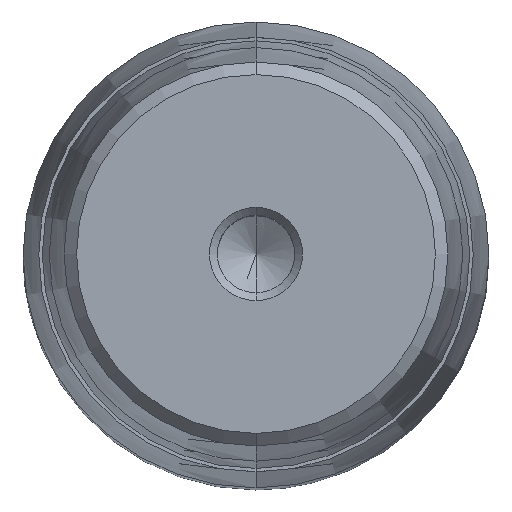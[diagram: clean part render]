
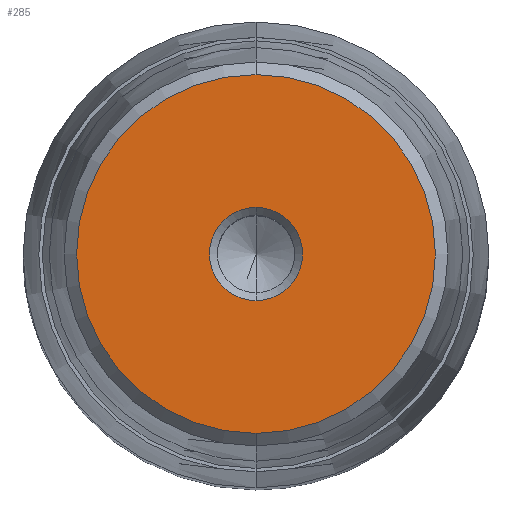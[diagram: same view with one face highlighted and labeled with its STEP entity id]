
A CAD part, top view. The second image highlights one B-rep face of the part: STEP entity #285.
In plain terms, the highlighted planar face has unit normal (0, 0, 1).
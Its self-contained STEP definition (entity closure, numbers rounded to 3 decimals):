
#164=CARTESIAN_POINT('Axis2P3D Location',(0.,0.,48.)) ;
#168=CARTESIAN_POINT('Vertex',(4.,0.,48.)) ;
#170=CARTESIAN_POINT('Vertex',(0.,-4.,48.)) ;
#173=CARTESIAN_POINT('Axis2P3D Location',(0.,0.,48.)) ;
#177=CARTESIAN_POINT('Vertex',(0.,4.,48.)) ;
#228=CARTESIAN_POINT('Axis2P3D Location',(0.,4.,48.)) ;
#233=CARTESIAN_POINT('Axis2P3D Location',(0.,0.,48.)) ;
#237=CARTESIAN_POINT('Vertex',(0.,15.4,48.)) ;
#239=CARTESIAN_POINT('Vertex',(15.4,0.,48.)) ;
#242=CARTESIAN_POINT('Axis2P3D Location',(0.,0.,48.)) ;
#246=CARTESIAN_POINT('Vertex',(-15.4,0.,48.)) ;
#249=CARTESIAN_POINT('Axis2P3D Location',(0.,0.,48.)) ;
#253=CARTESIAN_POINT('Vertex',(0.,-15.4,48.)) ;
#256=CARTESIAN_POINT('Axis2P3D Location',(0.,0.,48.)) ;
#267=CARTESIAN_POINT('Axis2P3D Location',(0.,0.,48.)) ;
#271=CARTESIAN_POINT('Vertex',(-4.,0.,48.)) ;
#274=CARTESIAN_POINT('Axis2P3D Location',(0.,0.,48.)) ;
#165=DIRECTION('Axis2P3D Direction',(0.,0.,1.)) ;
#174=DIRECTION('Axis2P3D Direction',(0.,0.,1.)) ;
#229=DIRECTION('Axis2P3D Direction',(-0.,0.,-1.)) ;
#230=DIRECTION('Axis2P3D XDirection',(0.,1.,0.)) ;
#234=DIRECTION('Axis2P3D Direction',(-0.,0.,-1.)) ;
#243=DIRECTION('Axis2P3D Direction',(-0.,0.,-1.)) ;
#250=DIRECTION('Axis2P3D Direction',(-0.,0.,-1.)) ;
#257=DIRECTION('Axis2P3D Direction',(-0.,0.,-1.)) ;
#268=DIRECTION('Axis2P3D Direction',(-0.,0.,-1.)) ;
#275=DIRECTION('Axis2P3D Direction',(-0.,0.,-1.)) ;
#166=AXIS2_PLACEMENT_3D('Circle Axis2P3D',#164,#165,$) ;
#175=AXIS2_PLACEMENT_3D('Circle Axis2P3D',#173,#174,$) ;
#231=AXIS2_PLACEMENT_3D('Plane Axis2P3D',#228,#229,#230) ;
#235=AXIS2_PLACEMENT_3D('Circle Axis2P3D',#233,#234,$) ;
#244=AXIS2_PLACEMENT_3D('Circle Axis2P3D',#242,#243,$) ;
#251=AXIS2_PLACEMENT_3D('Circle Axis2P3D',#249,#250,$) ;
#258=AXIS2_PLACEMENT_3D('Circle Axis2P3D',#256,#257,$) ;
#269=AXIS2_PLACEMENT_3D('Circle Axis2P3D',#267,#268,$) ;
#276=AXIS2_PLACEMENT_3D('Circle Axis2P3D',#274,#275,$) ;
#262=ORIENTED_EDGE('',*,*,#241,.F.) ;
#263=ORIENTED_EDGE('',*,*,#248,.F.) ;
#264=ORIENTED_EDGE('',*,*,#255,.F.) ;
#265=ORIENTED_EDGE('',*,*,#260,.F.) ;
#280=ORIENTED_EDGE('',*,*,#172,.T.) ;
#281=ORIENTED_EDGE('',*,*,#273,.T.) ;
#282=ORIENTED_EDGE('',*,*,#278,.T.) ;
#283=ORIENTED_EDGE('',*,*,#179,.T.) ;
#284=FACE_BOUND('',#279,.T.) ;
#285=ADVANCED_FACE('722-40x125x158',(#266,#284),#232,.F.) ;
#167=CIRCLE('generated circle',#166,4.) ;
#176=CIRCLE('generated circle',#175,4.) ;
#236=CIRCLE('generated circle',#235,15.4) ;
#245=CIRCLE('generated circle',#244,15.4) ;
#252=CIRCLE('generated circle',#251,15.4) ;
#259=CIRCLE('generated circle',#258,15.4) ;
#270=CIRCLE('generated circle',#269,4.) ;
#277=CIRCLE('generated circle',#276,4.) ;
#172=EDGE_CURVE('',#169,#171,#167,.F.) ;
#179=EDGE_CURVE('',#178,#169,#176,.F.) ;
#241=EDGE_CURVE('',#238,#240,#236,.T.) ;
#248=EDGE_CURVE('',#247,#238,#245,.T.) ;
#255=EDGE_CURVE('',#254,#247,#252,.T.) ;
#260=EDGE_CURVE('',#240,#254,#259,.T.) ;
#273=EDGE_CURVE('',#171,#272,#270,.T.) ;
#278=EDGE_CURVE('',#272,#178,#277,.T.) ;
#261=EDGE_LOOP('',(#262,#263,#264,#265)) ;
#279=EDGE_LOOP('',(#280,#281,#282,#283)) ;
#266=FACE_OUTER_BOUND('',#261,.T.) ;
#232=PLANE('Plane',#231) ;
#169=VERTEX_POINT('',#168) ;
#171=VERTEX_POINT('',#170) ;
#178=VERTEX_POINT('',#177) ;
#238=VERTEX_POINT('',#237) ;
#240=VERTEX_POINT('',#239) ;
#247=VERTEX_POINT('',#246) ;
#254=VERTEX_POINT('',#253) ;
#272=VERTEX_POINT('',#271) ;
